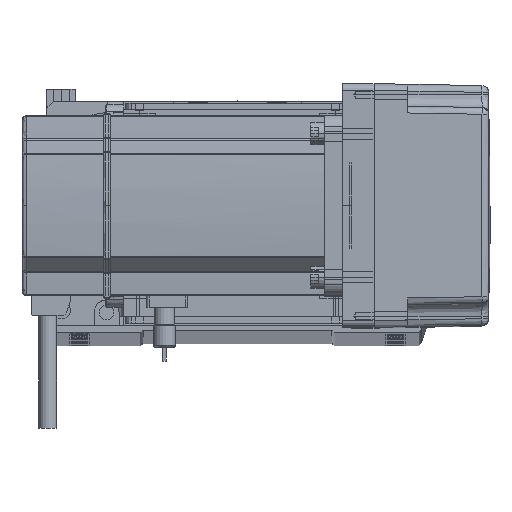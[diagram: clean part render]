
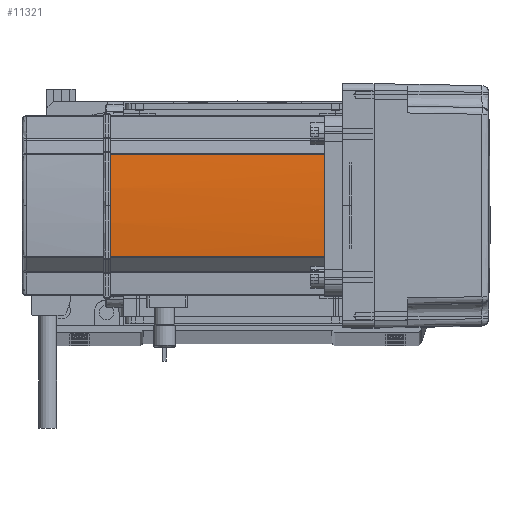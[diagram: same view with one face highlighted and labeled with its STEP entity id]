
A CAD part, top view. The second image highlights one B-rep face of the part: STEP entity #11321.
In plain terms, the highlighted cylindrical face has radius 270 mm (diameter 540 mm), a partial arc.
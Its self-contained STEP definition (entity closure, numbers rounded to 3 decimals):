
#819 = CARTESIAN_POINT ( 'NONE',  ( 230., 0., 134. ) ) ;
#944 = DIRECTION ( 'NONE',  ( 0., 0., 1. ) ) ;
#5612 = VERTEX_POINT ( 'NONE', #47109 ) ;
#6513 = AXIS2_PLACEMENT_3D ( 'NONE', #43201, #52944, #53593 ) ;
#9228 = CIRCLE ( 'NONE', #6513, 270. ) ;
#11103 = EDGE_CURVE ( 'NONE', #48172, #25418, #9228, .T. ) ;
#11321 = ADVANCED_FACE ( 'NONE', ( #23104 ), #63001, .T. ) ;
#13371 = VECTOR ( 'NONE', #944, 1000. ) ;
#16355 = CARTESIAN_POINT ( 'NONE',  ( -39.042, 22.724, 134. ) ) ;
#17138 = DIRECTION ( 'NONE',  ( 0., 0., -1. ) ) ;
#17595 = CARTESIAN_POINT ( 'NONE',  ( -40., 0., 134. ) ) ;
#18270 = LINE ( 'NONE', #47703, #13371 ) ;
#23104 = FACE_OUTER_BOUND ( 'NONE', #23224, .T. ) ;
#23224 = EDGE_LOOP ( 'NONE', ( #26267, #23751, #36312, #40815, #42196 ) ) ;
#23751 = ORIENTED_EDGE ( 'NONE', *, *, #11103, .T. ) ;
#25418 = VERTEX_POINT ( 'NONE', #16355 ) ;
#26267 = ORIENTED_EDGE ( 'NONE', *, *, #29874, .T. ) ;
#27420 = CARTESIAN_POINT ( 'NONE',  ( 230., 0., 39. ) ) ;
#27642 = DIRECTION ( 'NONE',  ( 1., 0., 0. ) ) ;
#29166 = DIRECTION ( 'NONE',  ( 0., 0., -1. ) ) ;
#29464 = CARTESIAN_POINT ( 'NONE',  ( 230., 0., 0. ) ) ;
#29874 = EDGE_CURVE ( 'NONE', #5612, #48172, #33755, .T. ) ;
#33755 = CIRCLE ( 'NONE', #54492, 270. ) ;
#34472 = CIRCLE ( 'NONE', #47203, 270. ) ;
#34479 = DIRECTION ( 'NONE',  ( 0., 0., 1. ) ) ;
#34848 = CARTESIAN_POINT ( 'NONE',  ( -39.042, 22.724, 0. ) ) ;
#36312 = ORIENTED_EDGE ( 'NONE', *, *, #52009, .T. ) ;
#38785 = EDGE_CURVE ( 'NONE', #44468, #63096, #34472, .T. ) ;
#39638 = LINE ( 'NONE', #34848, #67202 ) ;
#40815 = ORIENTED_EDGE ( 'NONE', *, *, #38785, .F. ) ;
#42196 = ORIENTED_EDGE ( 'NONE', *, *, #57213, .T. ) ;
#42336 = DIRECTION ( 'NONE',  ( 0., 0., -1. ) ) ;
#43201 = CARTESIAN_POINT ( 'NONE',  ( 230., 0., 134. ) ) ;
#44468 = VERTEX_POINT ( 'NONE', #47663 ) ;
#47109 = CARTESIAN_POINT ( 'NONE',  ( -39.042, -22.724, 134. ) ) ;
#47203 = AXIS2_PLACEMENT_3D ( 'NONE', #27420, #17138, #27642 ) ;
#47356 = DIRECTION ( 'NONE',  ( 1., 0., 0. ) ) ;
#47663 = CARTESIAN_POINT ( 'NONE',  ( -39.042, -22.724, 39. ) ) ;
#47703 = CARTESIAN_POINT ( 'NONE',  ( -39.042, -22.724, 0. ) ) ;
#48172 = VERTEX_POINT ( 'NONE', #17595 ) ;
#49783 = AXIS2_PLACEMENT_3D ( 'NONE', #29464, #34479, #55807 ) ;
#52009 = EDGE_CURVE ( 'NONE', #25418, #63096, #39638, .T. ) ;
#52944 = DIRECTION ( 'NONE',  ( 0., 0., -1. ) ) ;
#53593 = DIRECTION ( 'NONE',  ( 1., 0., 0. ) ) ;
#54492 = AXIS2_PLACEMENT_3D ( 'NONE', #819, #42336, #47356 ) ;
#55807 = DIRECTION ( 'NONE',  ( 1., 0., 0. ) ) ;
#57213 = EDGE_CURVE ( 'NONE', #44468, #5612, #18270, .T. ) ;
#63001 = CYLINDRICAL_SURFACE ( 'NONE', #49783, 270. ) ;
#63096 = VERTEX_POINT ( 'NONE', #67372 ) ;
#67202 = VECTOR ( 'NONE', #29166, 1000. ) ;
#67372 = CARTESIAN_POINT ( 'NONE',  ( -39.042, 22.724, 39. ) ) ;
